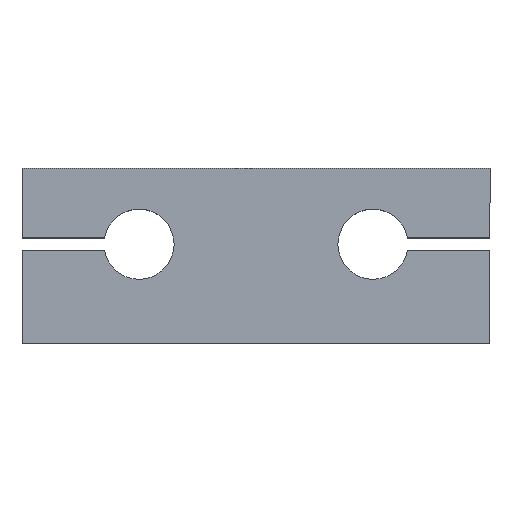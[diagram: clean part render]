
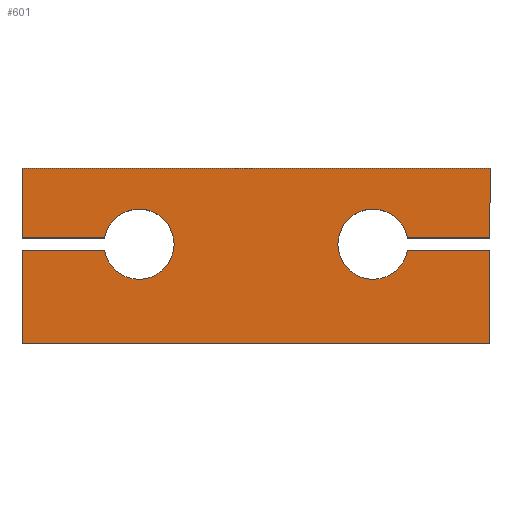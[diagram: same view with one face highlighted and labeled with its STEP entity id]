
A CAD part, top view. The second image highlights one B-rep face of the part: STEP entity #601.
In plain terms, the highlighted planar face has unit normal (0, 0, 1).
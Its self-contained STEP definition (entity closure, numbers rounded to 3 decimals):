
#7 = VECTOR ( 'NONE', #888, 1000. ) ;
#8 = AXIS2_PLACEMENT_3D ( 'NONE', #1021, #940, #857 ) ;
#20 = CARTESIAN_POINT ( 'NONE',  ( 40., 15., 7.5 ) ) ;
#27 = EDGE_CURVE ( 'NONE', #943, #334, #467, .T. ) ;
#32 = CIRCLE ( 'NONE', #8, 6. ) ;
#35 = LINE ( 'NONE', #268, #7 ) ;
#37 = EDGE_CURVE ( 'NONE', #271, #1020, #300, .T. ) ;
#39 = DIRECTION ( 'NONE',  ( 1., 0., 0. ) ) ;
#40 = DIRECTION ( 'NONE',  ( 0., 1., 0. ) ) ;
#52 = CIRCLE ( 'NONE', #988, 6. ) ;
#75 = EDGE_LOOP ( 'NONE', ( #822, #134, #841, #139, #1103, #289, #1072, #295, #398, #524, #209, #222, #169 ) ) ;
#76 = DIRECTION ( 'NONE',  ( 1., 0., 0. ) ) ;
#88 = VERTEX_POINT ( 'NONE', #957 ) ;
#101 = VECTOR ( 'NONE', #396, 1000. ) ;
#106 = DIRECTION ( 'NONE',  ( 0., -1., 0. ) ) ;
#119 = EDGE_CURVE ( 'NONE', #831, #374, #35, .T. ) ;
#123 = VECTOR ( 'NONE', #106, 1000. ) ;
#129 = CARTESIAN_POINT ( 'NONE',  ( 40., 3.075, 7.5 ) ) ;
#130 = VERTEX_POINT ( 'NONE', #636 ) ;
#134 = ORIENTED_EDGE ( 'NONE', *, *, #460, .F. ) ;
#137 = EDGE_CURVE ( 'NONE', #652, #867, #527, .T. ) ;
#139 = ORIENTED_EDGE ( 'NONE', *, *, #864, .F. ) ;
#153 = CARTESIAN_POINT ( 'NONE',  ( -40., 15., 7.5 ) ) ;
#159 = VECTOR ( 'NONE', #941, 1000. ) ;
#164 = VERTEX_POINT ( 'NONE', #1064 ) ;
#169 = ORIENTED_EDGE ( 'NONE', *, *, #27, .T. ) ;
#189 = CARTESIAN_POINT ( 'NONE',  ( 19., 0.925, 7.5 ) ) ;
#209 = ORIENTED_EDGE ( 'NONE', *, *, #37, .T. ) ;
#222 = ORIENTED_EDGE ( 'NONE', *, *, #487, .T. ) ;
#228 = CARTESIAN_POINT ( 'NONE',  ( -40., 3.075, 7.5 ) ) ;
#233 = VECTOR ( 'NONE', #993, 1000. ) ;
#236 = DIRECTION ( 'NONE',  ( 1., 0., 0. ) ) ;
#257 = DIRECTION ( 'NONE',  ( 1., 0., 0. ) ) ;
#258 = EDGE_CURVE ( 'NONE', #491, #334, #834, .T. ) ;
#268 = CARTESIAN_POINT ( 'NONE',  ( -40., -15., 7.5 ) ) ;
#271 = VERTEX_POINT ( 'NONE', #129 ) ;
#289 = ORIENTED_EDGE ( 'NONE', *, *, #119, .T. ) ;
#295 = ORIENTED_EDGE ( 'NONE', *, *, #137, .F. ) ;
#298 = EDGE_CURVE ( 'NONE', #374, #867, #738, .T. ) ;
#300 = LINE ( 'NONE', #817, #752 ) ;
#305 = VECTOR ( 'NONE', #620, 1000. ) ;
#312 = CARTESIAN_POINT ( 'NONE',  ( -20., 2., 7.5 ) ) ;
#315 = CARTESIAN_POINT ( 'NONE',  ( 40., 15., 7.5 ) ) ;
#327 = CARTESIAN_POINT ( 'NONE',  ( 40., -15., 7.5 ) ) ;
#334 = VERTEX_POINT ( 'NONE', #228 ) ;
#356 = CARTESIAN_POINT ( 'NONE',  ( -40., 15., 7.5 ) ) ;
#374 = VERTEX_POINT ( 'NONE', #327 ) ;
#396 = DIRECTION ( 'NONE',  ( 0., -1., 0. ) ) ;
#398 = ORIENTED_EDGE ( 'NONE', *, *, #409, .F. ) ;
#409 = EDGE_CURVE ( 'NONE', #939, #652, #52, .T. ) ;
#438 = CARTESIAN_POINT ( 'NONE',  ( -40., 15., 7.5 ) ) ;
#451 = VECTOR ( 'NONE', #659, 1000. ) ;
#460 = EDGE_CURVE ( 'NONE', #164, #491, #32, .T. ) ;
#466 = DIRECTION ( 'NONE',  ( 0., 0., 1. ) ) ;
#467 = LINE ( 'NONE', #881, #123 ) ;
#474 = AXIS2_PLACEMENT_3D ( 'NONE', #1073, #466, #39 ) ;
#487 = EDGE_CURVE ( 'NONE', #1020, #943, #782, .T. ) ;
#491 = VERTEX_POINT ( 'NONE', #873 ) ;
#524 = ORIENTED_EDGE ( 'NONE', *, *, #942, .F. ) ;
#527 = LINE ( 'NONE', #189, #305 ) ;
#557 = AXIS2_PLACEMENT_3D ( 'NONE', #312, #1094, #236 ) ;
#601 = ADVANCED_FACE ( 'NONE', ( #633 ), #643, .T. ) ;
#620 = DIRECTION ( 'NONE',  ( 1., 0., 0. ) ) ;
#630 = VECTOR ( 'NONE', #790, 1000. ) ;
#633 = FACE_OUTER_BOUND ( 'NONE', #75, .T. ) ;
#636 = CARTESIAN_POINT ( 'NONE',  ( -40., 0.925, 7.5 ) ) ;
#643 = PLANE ( 'NONE',  #474 ) ;
#652 = VERTEX_POINT ( 'NONE', #896 ) ;
#659 = DIRECTION ( 'NONE',  ( 0., 1., 0. ) ) ;
#674 = DIRECTION ( 'NONE',  ( 0., 0., 1. ) ) ;
#683 = CARTESIAN_POINT ( 'NONE',  ( 25.903, 3.075, 7.5 ) ) ;
#692 = VECTOR ( 'NONE', #257, 1000. ) ;
#707 = EDGE_CURVE ( 'NONE', #130, #831, #915, .T. ) ;
#738 = LINE ( 'NONE', #315, #451 ) ;
#752 = VECTOR ( 'NONE', #40, 1000. ) ;
#767 = CARTESIAN_POINT ( 'NONE',  ( 40., 0.925, 7.5 ) ) ;
#782 = LINE ( 'NONE', #356, #630 ) ;
#784 = CARTESIAN_POINT ( 'NONE',  ( -40., 0.925, 7.5 ) ) ;
#790 = DIRECTION ( 'NONE',  ( -1., 0., 0. ) ) ;
#795 = EDGE_CURVE ( 'NONE', #88, #164, #877, .T. ) ;
#817 = CARTESIAN_POINT ( 'NONE',  ( 40., 15., 7.5 ) ) ;
#822 = ORIENTED_EDGE ( 'NONE', *, *, #258, .F. ) ;
#831 = VERTEX_POINT ( 'NONE', #837 ) ;
#834 = LINE ( 'NONE', #982, #233 ) ;
#837 = CARTESIAN_POINT ( 'NONE',  ( -40., -15., 7.5 ) ) ;
#841 = ORIENTED_EDGE ( 'NONE', *, *, #795, .F. ) ;
#850 = CARTESIAN_POINT ( 'NONE',  ( 20., 2., 7.5 ) ) ;
#857 = DIRECTION ( 'NONE',  ( 1., 0., 0. ) ) ;
#864 = EDGE_CURVE ( 'NONE', #130, #88, #953, .T. ) ;
#867 = VERTEX_POINT ( 'NONE', #767 ) ;
#873 = CARTESIAN_POINT ( 'NONE',  ( -25.903, 3.075, 7.5 ) ) ;
#877 = CIRCLE ( 'NONE', #557, 6. ) ;
#881 = CARTESIAN_POINT ( 'NONE',  ( -40., 15., 7.5 ) ) ;
#888 = DIRECTION ( 'NONE',  ( 1., 0., 0. ) ) ;
#896 = CARTESIAN_POINT ( 'NONE',  ( 25.903, 0.925, 7.5 ) ) ;
#915 = LINE ( 'NONE', #153, #101 ) ;
#939 = VERTEX_POINT ( 'NONE', #683 ) ;
#940 = DIRECTION ( 'NONE',  ( 0., 0., 1. ) ) ;
#941 = DIRECTION ( 'NONE',  ( -1., 0., 0. ) ) ;
#942 = EDGE_CURVE ( 'NONE', #271, #939, #1022, .T. ) ;
#943 = VERTEX_POINT ( 'NONE', #438 ) ;
#953 = LINE ( 'NONE', #784, #692 ) ;
#957 = CARTESIAN_POINT ( 'NONE',  ( -25.903, 0.925, 7.5 ) ) ;
#982 = CARTESIAN_POINT ( 'NONE',  ( -40., 3.075, 7.5 ) ) ;
#988 = AXIS2_PLACEMENT_3D ( 'NONE', #850, #674, #76 ) ;
#993 = DIRECTION ( 'NONE',  ( -1., 0., 0. ) ) ;
#1020 = VERTEX_POINT ( 'NONE', #20 ) ;
#1021 = CARTESIAN_POINT ( 'NONE',  ( -20., 2., 7.5 ) ) ;
#1022 = LINE ( 'NONE', #1112, #159 ) ;
#1064 = CARTESIAN_POINT ( 'NONE',  ( -14., 2., 7.5 ) ) ;
#1072 = ORIENTED_EDGE ( 'NONE', *, *, #298, .T. ) ;
#1073 = CARTESIAN_POINT ( 'NONE',  ( 0., 0., 7.5 ) ) ;
#1094 = DIRECTION ( 'NONE',  ( 0., 0., 1. ) ) ;
#1103 = ORIENTED_EDGE ( 'NONE', *, *, #707, .T. ) ;
#1112 = CARTESIAN_POINT ( 'NONE',  ( 19., 3.075, 7.5 ) ) ;
